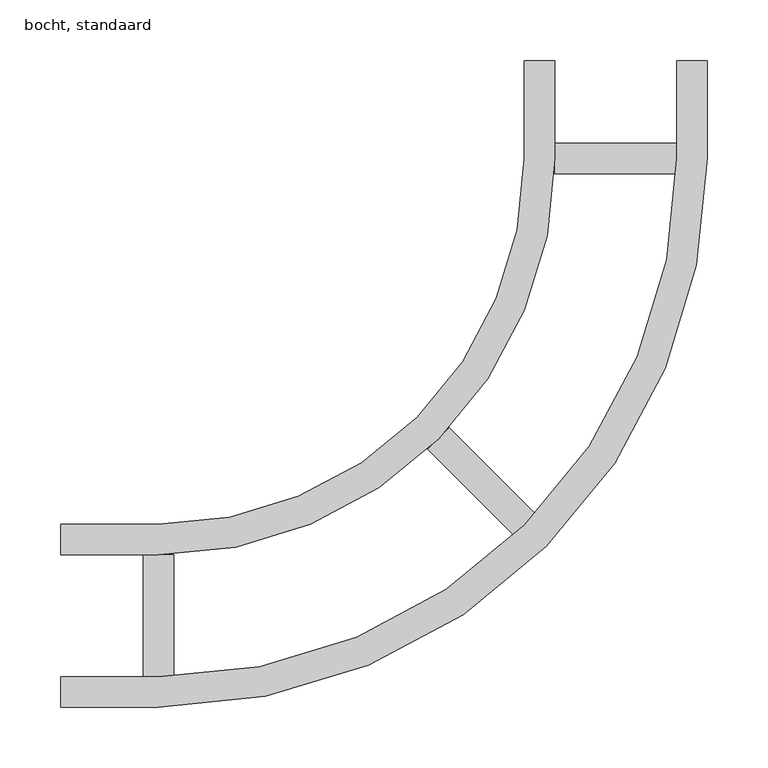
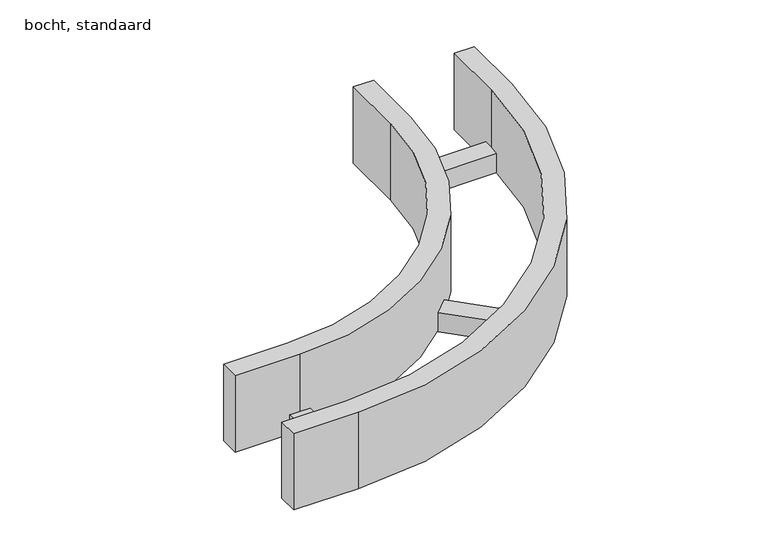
"""IFC4 building model written with IfcOpenShell, lengths in millimetres: cable carrier fitting geometry, 61_CTF_kabelgoot_open_bocht_horizontaal : bocht, standaard."""

import ifcopenshell
import ifcopenshell.guid

model = None  # the IFC model being written
_history = None  # IfcOwnerHistory: only IFC2X3 demands one
_inside = {}  # id of a spatial element -> (the spatial element, [elements in it])
_under = {}  # id of a project, library or spatial element -> (it, [spatial elements below it])
_declared = {}  # id of a project -> (the project, [libraries it declares])
_typed = {}  # id of a type object -> (the type object, [elements of that type])
_made_of = {}  # id of a material, layer set ... -> (it, [elements and type objects made of it])


def new_model(schema):
    """Start an empty IFC model of exactly this schema.

    Asked for "IFC4X3", IfcOpenShell would pick the latest addendum, in which some entities
    have other attributes; the version numbers below select the first issue.
    IFC2X3 requires an IfcOwnerHistory on every rooted entity: one is made here for all.
    """
    global model, _history
    if schema == "IFC4X3":
        model = ifcopenshell.file(schema_version=(4, 3, 0, 0))
    else:
        model = ifcopenshell.file(schema=schema)
    _inside.clear()
    _under.clear()
    _declared.clear()
    _typed.clear()
    _made_of.clear()
    _history = None
    if model.schema == "IFC2X3":
        org = make("IfcOrganization", Name="unknown")
        user = make(
            "IfcPersonAndOrganization",
            ThePerson=make("IfcPerson", FamilyName="unknown"),
            TheOrganization=org,
        )
        app = make(
            "IfcApplication",
            ApplicationDeveloper=org,
            Version="unknown",
            ApplicationFullName="unknown",
            ApplicationIdentifier="unknown",
        )
        _history = make(
            "IfcOwnerHistory",
            OwningUser=user,
            OwningApplication=app,
            ChangeAction="ADDED",
            CreationDate=0,
        )
    return model


def make(cls, **values):
    """One entity of the class cls with the attributes given. An attribute that is None is left unset."""
    return model.create_entity(
        cls, **{name: value for name, value in values.items() if value is not None}
    )


def rooted(cls, **values):
    """An entity with a GlobalId (a new one), such as an element, a storey or a relation."""
    return make(cls, GlobalId=ifcopenshell.guid.new(), OwnerHistory=_history, **values)


def si_unit(unit_type, name, prefix=None):
    """IfcSIUnit, for example si_unit("LENGTHUNIT", "METRE", prefix="MILLI")."""
    return make("IfcSIUnit", UnitType=unit_type, Prefix=prefix, Name=name)


def assignment(units):
    """IfcUnitAssignment: the units of a project."""
    return None if units is None else make("IfcUnitAssignment", Units=units)


def point(xyz):
    """IfcCartesianPoint."""
    return None if xyz is None else make("IfcCartesianPoint", Coordinates=xyz)


def direction(xyz):
    """IfcDirection."""
    return None if xyz is None else make("IfcDirection", DirectionRatios=xyz)


def frame(location, z_axis=None, x_axis=None):
    """IfcAxis2Placement3D, a coordinate frame: its origin and axes. An axis left out is left unset."""
    return make(
        "IfcAxis2Placement3D",
        Location=point(location),
        Axis=direction(z_axis),
        RefDirection=direction(x_axis),
    )


def frame_2d(location, x_axis=None):
    """IfcAxis2Placement2D, a coordinate frame in the plane: its origin and x axis."""
    return make(
        "IfcAxis2Placement2D", Location=point(location), RefDirection=direction(x_axis)
    )


def origin():
    """The frame at (0, 0, 0) with its axes left unset."""
    return frame((0.0, 0.0, 0.0))


def place(relative_to, where):
    """IfcLocalPlacement: puts the frame where relative to a parent placement (None: the world)."""
    return make(
        "IfcLocalPlacement", PlacementRelTo=relative_to, RelativePlacement=where
    )


def context(
    kind, dimensions, precision=None, world=None, true_north=None, identifier=None
):
    """IfcGeometricRepresentationContext, for example the 3D "Model" context."""
    return make(
        "IfcGeometricRepresentationContext",
        ContextIdentifier=identifier,
        ContextType=kind,
        CoordinateSpaceDimension=dimensions,
        Precision=precision,
        WorldCoordinateSystem=world,
        TrueNorth=true_north,
    )


def project(units=None, contexts=None):
    """IfcProject with its units and contexts."""
    return rooted(
        "IfcProject",
        Name="project",
        RepresentationContexts=contexts,
        UnitsInContext=assignment(units),
    )


def spatial(cls, under=None, at=None, **own):
    """A site, building, storey or space (cls), placed at a placement, below another one or the project."""
    s = rooted(cls, ObjectPlacement=at, **own)
    if under is not None:
        _under.setdefault(under.id(), (under, []))[1].append(s)
    return s


def polyline(points):
    """IfcPolyline through the points."""
    return make("IfcPolyline", Points=[point(p) for p in points])


def circle_curve(where, radius):
    """IfcCircle in the frame where."""
    return make("IfcCircle", Position=where, Radius=radius)


def trimmed(basis, trim1, trim2, sense, master):
    """IfcTrimmedCurve: the piece of a basis curve between two trims."""
    return make(
        "IfcTrimmedCurve",
        BasisCurve=basis,
        Trim1=trim1,
        Trim2=trim2,
        SenseAgreement=sense,
        MasterRepresentation=master,
    )


def segment(curve, same_sense, transition):
    """IfcCompositeCurveSegment."""
    return make(
        "IfcCompositeCurveSegment",
        Transition=transition,
        SameSense=same_sense,
        ParentCurve=curve,
    )


def composite_curve(segments, self_intersect=None):
    """IfcCompositeCurve: segments joined end to end."""
    return make("IfcCompositeCurve", Segments=segments, SelfIntersect=self_intersect)


def outline(outer, holes=None, kind="AREA"):
    """IfcArbitraryClosedProfileDef: a profile drawn as a closed curve; with holes, ...WithVoids."""
    if holes is None:
        return make("IfcArbitraryClosedProfileDef", ProfileType=kind, OuterCurve=outer)
    return make(
        "IfcArbitraryProfileDefWithVoids",
        ProfileType=kind,
        OuterCurve=outer,
        InnerCurves=holes,
    )


def extrude(swept, where, along, depth):
    """IfcExtrudedAreaSolid: the profile swept, set in the frame where, extruded along a direction by depth."""
    return make(
        "IfcExtrudedAreaSolid",
        SweptArea=swept,
        Position=where,
        ExtrudedDirection=direction(along),
        Depth=depth,
    )


def shape(context_of_items, identifier, shape_type, items):
    """IfcShapeRepresentation: the items that make up one representation, for example the "Body"."""
    return make(
        "IfcShapeRepresentation",
        ContextOfItems=context_of_items,
        RepresentationIdentifier=identifier,
        RepresentationType=shape_type,
        Items=items,
    )


def source(mapping_origin, context_of_items, identifier, shape_type, items):
    """IfcRepresentationMap: a shape defined once, which mapped items show again and again."""
    return make(
        "IfcRepresentationMap",
        MappingOrigin=mapping_origin,
        MappedRepresentation=shape(context_of_items, identifier, shape_type, items),
    )


def transform(
    local_origin,
    x_axis=None,
    y_axis=None,
    z_axis=None,
    scale=None,
    scale2=None,
    scale3=None,
    uniform=True,
):
    """IfcCartesianTransformationOperator3D, or its non-uniform kind. x_axis, y_axis, z_axis: its Axis1, 2, 3."""
    if uniform:
        return make(
            "IfcCartesianTransformationOperator3D",
            Axis1=direction(x_axis),
            Axis2=direction(y_axis),
            LocalOrigin=point(local_origin),
            Scale=scale,
            Axis3=direction(z_axis),
        )
    return make(
        "IfcCartesianTransformationOperator3DnonUniform",
        Axis1=direction(x_axis),
        Axis2=direction(y_axis),
        LocalOrigin=point(local_origin),
        Scale=scale,
        Axis3=direction(z_axis),
        Scale2=scale2,
        Scale3=scale3,
    )


def mapped(mapping_source, mapping_target):
    """IfcMappedItem: shows the shape of a source again, moved by a transform."""
    return make(
        "IfcMappedItem", MappingSource=mapping_source, MappingTarget=mapping_target
    )


def made_of(thing, what):
    """Note that an element or type object is made of a material, layer set ...; save() writes the relation."""
    if what is not None:
        _made_of.setdefault(what.id(), (what, []))[1].append(thing)
    return thing


def element(
    cls,
    number,
    at=None,
    inside=None,
    cuts=None,
    type_object=None,
    material=None,
    context=None,
    identifier="Body",
    shape_type=None,
    held_by="IfcProductDefinitionShape",
    body=None,
    shapes=None,
    **own,
):
    """One element of the class cls, such as IfcWall. Its Tag is "e" and its number.

    at: its placement. inside: the storey or other place that contains it. cuts: it is an
    opening in that element (IfcRelVoidsElement). A single representation is given by context,
    identifier, shape_type and body (its items); several are given by shapes. held_by: the class
    of the entity that holds the representations. save() writes the other relations.
    """
    e = rooted(cls, Tag="e%d" % number, ObjectPlacement=at, **own)
    if body is not None:
        shapes = [shape(context, identifier, shape_type, body)]
    if shapes is not None:
        e.Representation = make(held_by, Representations=shapes)
    if inside is not None:
        _inside.setdefault(inside.id(), (inside, []))[1].append(e)
    if cuts is not None:
        rooted(
            "IfcRelVoidsElement", RelatingBuildingElement=cuts, RelatedOpeningElement=e
        )
    if type_object is not None:
        _typed.setdefault(type_object.id(), (type_object, []))[1].append(e)
    return made_of(e, material)


def aggregate(whole, parts):
    """IfcRelAggregates: a whole, such as a stair, and the parts it consists of."""
    return rooted("IfcRelAggregates", RelatingObject=whole, RelatedObjects=parts)


def save(model, path):
    """Write the relations noted so far, then the file.

    IfcRelAggregates (storeys below a building ...), IfcRelContainedInSpatialStructure (elements
    in a storey), IfcRelDefinesByType, IfcRelAssociatesMaterial and IfcRelDeclares: one each for
    every whole, place, type object, material and project.
    """
    for whole, parts in _under.values():
        aggregate(whole, parts)
    for where, things in _inside.values():
        rooted(
            "IfcRelContainedInSpatialStructure",
            RelatedElements=things,
            RelatingStructure=where,
        )
    for kind, things in _typed.values():
        rooted("IfcRelDefinesByType", RelatedObjects=things, RelatingType=kind)
    for what, things in _made_of.values():
        rooted("IfcRelAssociatesMaterial", RelatedObjects=things, RelatingMaterial=what)
    for by, libraries in _declared.values():
        rooted("IfcRelDeclares", RelatingContext=by, RelatedDefinitions=libraries)
    model.write(path)


def bocht_standaard_0cc64df2(model_context):
    return source(origin(), model_context, "Body", "SweptSolid", [
        extrude(outline(polyline([(-50.0, 362.5), (-50.0, 387.5), (50.0, 387.5), (50.0, 362.5), (-50.0, 362.5)])), frame((0.0, 0.0, -50.0), z_axis=(0.0, 0.0, 1.0), x_axis=(1.0, 0.0, 0.0)), (0.0, 0.0, 1.0), 25.0),
        extrude(outline(polyline([(-387.5, 50.0), (-362.5, 50.0), (-362.5, -50.0), (-387.5, -50.0), (-387.5, 50.0)])), frame((0.0, 0.0, -50.0), z_axis=(0.0, 0.0, 1.0), x_axis=(1.0, 0.0, 0.0)), (0.0, 0.0, 1.0), 25.0),
        extrude(outline(polyline([(-154.0291309, 136.3514613), (-136.3514613, 154.0291309), (-65.6407832, 83.3184528), (-83.3184528, 65.6407832), (-154.0291309, 136.3514613)])), frame((0.0, 0.0, -50.0), z_axis=(0.0, 0.0, 1.0), x_axis=(1.0, 0.0, 0.0)), (0.0, 0.0, 1.0), 25.0),
        extrude(outline(composite_curve([segment(polyline([(-455.0, -75.0), (-455.0, -50.0), (-375.0, -50.0)]), True, "CONTINUOUS"), segment(trimmed(circle_curve(frame_2d((-375.0, 375.0)), 425.0), [point((-375.0, -50.0))], [point((50.0, 375.0))], True, "CARTESIAN"), True, "CONTINUOUS"), segment(polyline([(50.0, 375.0), (50.0, 455.0), (75.0, 455.0), (75.0, 375.0)]), True, "CONTINUOUS"), segment(trimmed(circle_curve(frame_2d((-375.0, 375.0)), 450.0), [point((75.0, 375.0))], [point((-375.0, -75.0))], False, "CARTESIAN"), True, "CONTINUOUS"), segment(polyline([(-375.0, -75.0), (-455.0, -75.0)]), True, "CONTINUOUS")], self_intersect=False)), frame((0.0, 0.0, -50.0), z_axis=(0.0, 0.0, 1.0), x_axis=(1.0, 0.0, 0.0)), (0.0, 0.0, 1.0), 100.0),
        extrude(outline(composite_curve([segment(polyline([(-455.0, 50.0), (-455.0, 75.0), (-375.0, 75.0)]), True, "CONTINUOUS"), segment(trimmed(circle_curve(frame_2d((-375.0, 375.0)), 300.0), [point((-375.0, 75.0))], [point((-75.0, 375.0))], True, "CARTESIAN"), True, "CONTINUOUS"), segment(polyline([(-75.0, 375.0), (-75.0, 455.0), (-50.0, 455.0), (-50.0, 375.0)]), True, "CONTINUOUS"), segment(trimmed(circle_curve(frame_2d((-375.0, 375.0)), 325.0), [point((-50.0, 375.0))], [point((-375.0, 50.0))], False, "CARTESIAN"), True, "CONTINUOUS"), segment(polyline([(-375.0, 50.0), (-455.0, 50.0)]), True, "CONTINUOUS")], self_intersect=False)), frame((0.0, 0.0, -50.0), z_axis=(0.0, 0.0, 1.0), x_axis=(1.0, 0.0, 0.0)), (0.0, 0.0, 1.0), 100.0),
    ])


if __name__ == "__main__":
    model = new_model("IFC4")
    model_context = context("Model", 3, world=origin())
    ifc_project = project(units=[si_unit("LENGTHUNIT", "METRE", prefix="MILLI")], contexts=[model_context])
    site = spatial("IfcSite", under=ifc_project)
    building = spatial("IfcBuilding", under=site)
    placement = place(None, origin())
    bocht_standaard_shape = bocht_standaard_0cc64df2(model_context)
    element("IfcCableCarrierFitting", 1, ObjectType="61_CTF_kabelgoot_open_bocht_horizontaal : bocht, standaard", at=placement, inside=building, context=model_context, shape_type="MappedRepresentation", body=[
        mapped(bocht_standaard_shape, transform((0.0, 0.0, 0.0), x_axis=(1.0, 0.0, 0.0), y_axis=(0.0, 1.0, 0.0), z_axis=(0.0, 0.0, 1.0))),
    ])
    save(model, "model.ifc")
